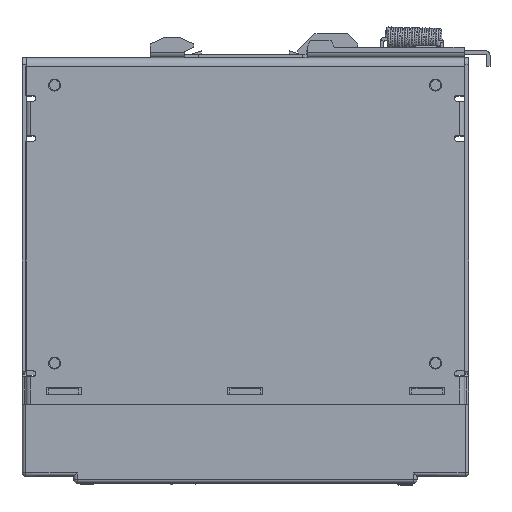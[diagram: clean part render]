
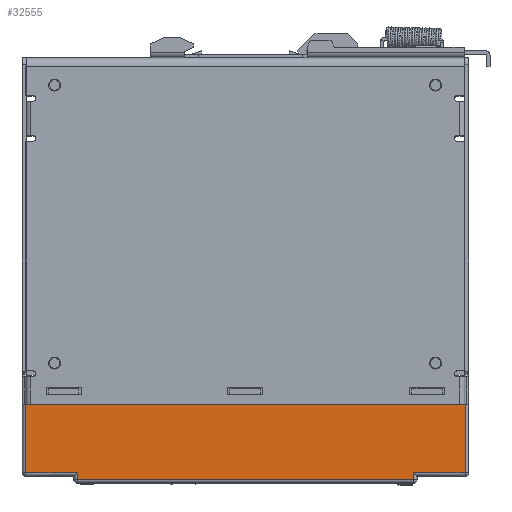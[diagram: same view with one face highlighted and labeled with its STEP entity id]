
A CAD part, left-side view. The second image highlights one B-rep face of the part: STEP entity #32555.
In plain terms, the highlighted planar face has unit normal (-1, 0, 0) as drawn and (0, 0, -1) by its records, which use the part's own axes.
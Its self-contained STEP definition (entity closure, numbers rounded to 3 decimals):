
#28911=DIRECTION('',(1.,0.,0.));
#28912=VECTOR('',#28911,98.);
#28913=CARTESIAN_POINT('',(-49.,-11.5,-15.));
#28914=LINE('',#28913,#28912);
#28918=DIRECTION('',(0.,1.,0.));
#28919=VECTOR('',#28918,2.);
#28920=CARTESIAN_POINT('',(49.,-11.5,-15.));
#28921=LINE('',#28920,#28919);
#28925=DIRECTION('',(1.,0.,0.));
#28926=VECTOR('',#28925,15.);
#28927=CARTESIAN_POINT('',(49.,-9.5,-15.));
#28928=LINE('',#28927,#28926);
#28932=DIRECTION('',(0.,-1.,0.));
#28933=VECTOR('',#28932,20.);
#28934=CARTESIAN_POINT('',(64.,10.5,-15.));
#28935=LINE('',#28934,#28933);
#28939=DIRECTION('',(0.,-1.,0.));
#28940=VECTOR('',#28939,20.);
#28941=CARTESIAN_POINT('',(-64.,10.5,-15.));
#28942=LINE('',#28941,#28940);
#28946=DIRECTION('',(1.,0.,0.));
#28947=VECTOR('',#28946,15.);
#28948=CARTESIAN_POINT('',(-64.,-9.5,-15.));
#28949=LINE('',#28948,#28947);
#28953=DIRECTION('',(0.,1.,0.));
#28954=VECTOR('',#28953,2.);
#28955=CARTESIAN_POINT('',(-49.,-11.5,-15.));
#28956=LINE('',#28955,#28954);
#29882=DIRECTION('',(-1.,0.,0.));
#29883=VECTOR('',#29882,128.);
#29884=CARTESIAN_POINT('',(64.,10.5,-15.));
#29885=LINE('',#29884,#29883);
#31954=CARTESIAN_POINT('',(-49.,-11.5,-15.));
#31955=CARTESIAN_POINT('',(49.,-11.5,-15.));
#31956=VERTEX_POINT('',#31954);
#31957=VERTEX_POINT('',#31955);
#31985=CARTESIAN_POINT('',(64.,10.5,-15.));
#31987=VERTEX_POINT('',#31985);
#31988=CARTESIAN_POINT('',(64.,-9.5,-15.));
#31989=VERTEX_POINT('',#31988);
#31992=CARTESIAN_POINT('',(49.,-9.5,-15.));
#31993=VERTEX_POINT('',#31992);
#32010=CARTESIAN_POINT('',(-49.,-9.5,-15.));
#32011=VERTEX_POINT('',#32010);
#32014=CARTESIAN_POINT('',(-64.,-9.5,-15.));
#32015=VERTEX_POINT('',#32014);
#32018=CARTESIAN_POINT('',(-64.,10.5,-15.));
#32020=VERTEX_POINT('',#32018);
#32533=CARTESIAN_POINT('',(65.,-10.5,-15.));
#32534=DIRECTION('',(0.,0.,-1.));
#32535=DIRECTION('',(-1.,0.,0.));
#32536=AXIS2_PLACEMENT_3D('',#32533,#32534,#32535);
#32537=PLANE('',#32536);
#32538=ORIENTED_EDGE('',*,*,#32523,.T.);
#32540=ORIENTED_EDGE('',*,*,#32539,.T.);
#32542=ORIENTED_EDGE('',*,*,#32541,.T.);
#32544=ORIENTED_EDGE('',*,*,#32543,.F.);
#32546=ORIENTED_EDGE('',*,*,#32545,.T.);
#32548=ORIENTED_EDGE('',*,*,#32547,.T.);
#32550=ORIENTED_EDGE('',*,*,#32549,.T.);
#32552=ORIENTED_EDGE('',*,*,#32551,.F.);
#32553=EDGE_LOOP('',(#32538,#32540,#32542,#32544,#32546,#32548,#32550,#32552));
#32554=FACE_OUTER_BOUND('',#32553,.F.);
#32523=EDGE_CURVE('',#31956,#31957,#28914,.T.);
#32539=EDGE_CURVE('',#31957,#31993,#28921,.T.);
#32541=EDGE_CURVE('',#31993,#31989,#28928,.T.);
#32543=EDGE_CURVE('',#31987,#31989,#28935,.T.);
#32545=EDGE_CURVE('',#31987,#32020,#29885,.T.);
#32547=EDGE_CURVE('',#32020,#32015,#28942,.T.);
#32549=EDGE_CURVE('',#32015,#32011,#28949,.T.);
#32551=EDGE_CURVE('',#31956,#32011,#28956,.T.);
#32555=ADVANCED_FACE('',(#32554),#32537,.T.);
